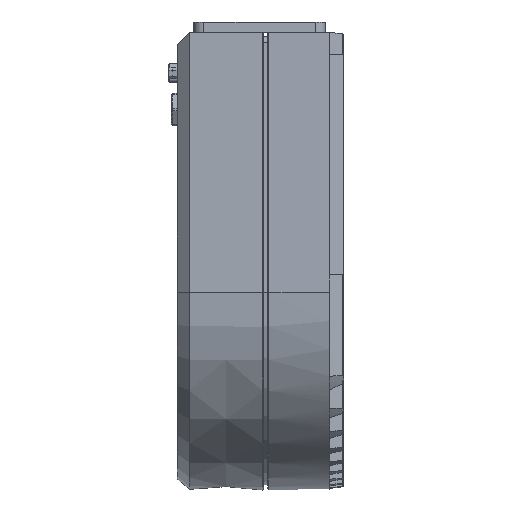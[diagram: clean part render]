
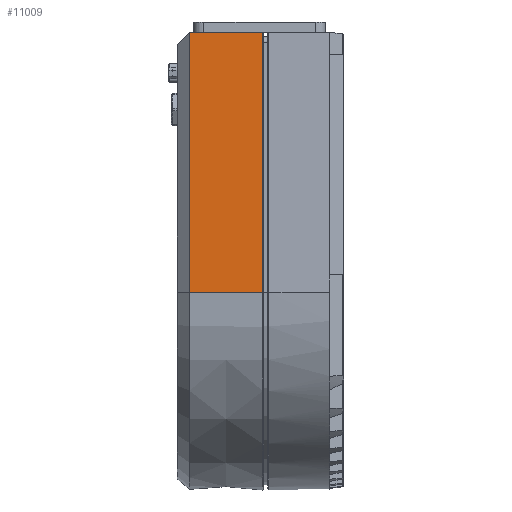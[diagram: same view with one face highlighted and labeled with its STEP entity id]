
A CAD part, left-side view. The second image highlights one B-rep face of the part: STEP entity #11009.
In plain terms, the highlighted planar face has unit normal (-1, 0.009, 0).
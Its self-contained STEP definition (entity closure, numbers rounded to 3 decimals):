
#115 = CARTESIAN_POINT ( 'NONE',  ( -97.367, 40., 0.052 ) ) ;
#2433 = CARTESIAN_POINT ( 'NONE',  ( -97., 82., 0.052 ) ) ;
#3950 = CARTESIAN_POINT ( 'NONE',  ( -97.052, 76.044, -128. ) ) ;
#6410 = EDGE_CURVE ( 'NONE', #19203, #21887, #9053, .T. ) ;
#7007 = VERTEX_POINT ( 'NONE', #3950 ) ;
#9053 = LINE ( 'NONE', #2433, #27902 ) ;
#9391 = LINE ( 'NONE', #18432, #30914 ) ;
#10046 = VECTOR ( 'NONE', #41701, 1000. ) ;
#11009 = ADVANCED_FACE ( 'NONE', ( #36456 ), #26756, .T. ) ;
#12385 = CARTESIAN_POINT ( 'NONE',  ( -97., 82., -128. ) ) ;
#12919 = VECTOR ( 'NONE', #25184, 1000. ) ;
#13980 = CARTESIAN_POINT ( 'NONE',  ( -97., 82., 0. ) ) ;
#14484 = EDGE_CURVE ( 'NONE', #19203, #31400, #17976, .T. ) ;
#14762 = ORIENTED_EDGE ( 'NONE', *, *, #37816, .F. ) ;
#14969 = CARTESIAN_POINT ( 'NONE',  ( -97.052, 76., 0.052 ) ) ;
#17976 = LINE ( 'NONE', #21536, #10046 ) ;
#18005 = ORIENTED_EDGE ( 'NONE', *, *, #24250, .T. ) ;
#18432 = CARTESIAN_POINT ( 'NONE',  ( -97.052, 76.003, -0.002 ) ) ;
#19054 = DIRECTION ( 'NONE',  ( 0., 0., -1. ) ) ;
#19203 = VERTEX_POINT ( 'NONE', #14969 ) ;
#19629 = VECTOR ( 'NONE', #37023, 1000. ) ;
#19839 = AXIS2_PLACEMENT_3D ( 'NONE', #13980, #20711, #36247 ) ;
#20146 = EDGE_CURVE ( 'NONE', #31400, #7007, #9391, .T. ) ;
#20711 = DIRECTION ( 'NONE',  ( -1., 0.009, 0. ) ) ;
#21536 = CARTESIAN_POINT ( 'NONE',  ( -97.045, 76.84, -0.794 ) ) ;
#21887 = VERTEX_POINT ( 'NONE', #115 ) ;
#24187 = LINE ( 'NONE', #27125, #19629 ) ;
#24250 = EDGE_CURVE ( 'NONE', #39414, #21887, #24187, .T. ) ;
#24576 = DIRECTION ( 'NONE',  ( -0.009, -1., 0. ) ) ;
#25184 = DIRECTION ( 'NONE',  ( 0.009, 1., 0. ) ) ;
#26756 = PLANE ( 'NONE',  #19839 ) ;
#27125 = CARTESIAN_POINT ( 'NONE',  ( -97.367, 40., 0.052 ) ) ;
#27537 = ORIENTED_EDGE ( 'NONE', *, *, #6410, .F. ) ;
#27902 = VECTOR ( 'NONE', #24576, 1000. ) ;
#29779 = CARTESIAN_POINT ( 'NONE',  ( -97.367, 40., -128. ) ) ;
#29934 = ORIENTED_EDGE ( 'NONE', *, *, #14484, .T. ) ;
#30914 = VECTOR ( 'NONE', #19054, 1000. ) ;
#31400 = VERTEX_POINT ( 'NONE', #40756 ) ;
#32875 = ORIENTED_EDGE ( 'NONE', *, *, #20146, .T. ) ;
#32928 = EDGE_LOOP ( 'NONE', ( #14762, #18005, #27537, #29934, #32875 ) ) ;
#36247 = DIRECTION ( 'NONE',  ( -0.009, -1., 0. ) ) ;
#36456 = FACE_OUTER_BOUND ( 'NONE', #32928, .T. ) ;
#37023 = DIRECTION ( 'NONE',  ( 0., 0., 1. ) ) ;
#37610 = LINE ( 'NONE', #12385, #12919 ) ;
#37816 = EDGE_CURVE ( 'NONE', #39414, #7007, #37610, .T. ) ;
#39414 = VERTEX_POINT ( 'NONE', #29779 ) ;
#40756 = CARTESIAN_POINT ( 'NONE',  ( -97.052, 76.003, 0.049 ) ) ;
#41701 = DIRECTION ( 'NONE',  ( 0.006, 0.704, -0.71 ) ) ;
